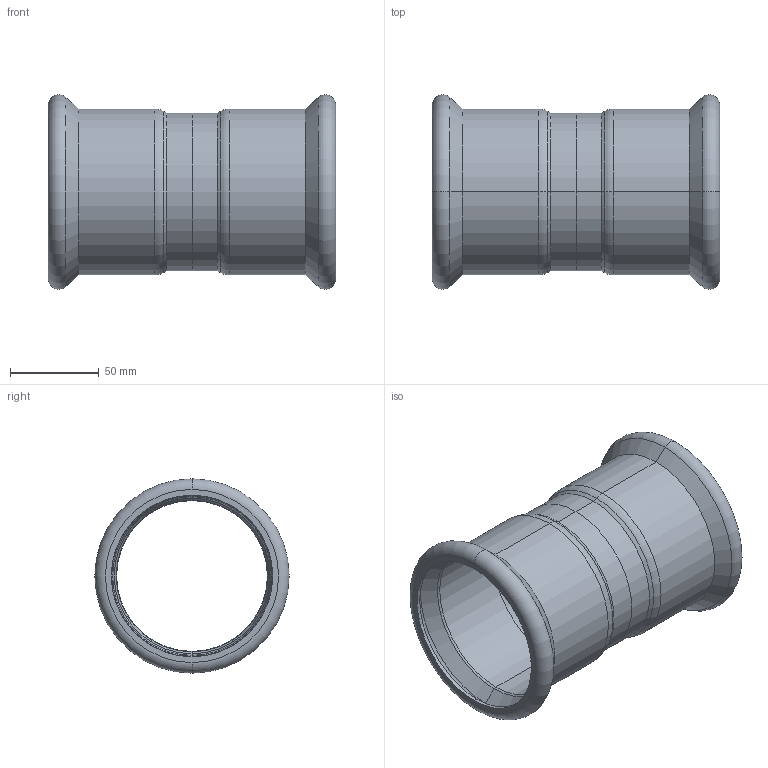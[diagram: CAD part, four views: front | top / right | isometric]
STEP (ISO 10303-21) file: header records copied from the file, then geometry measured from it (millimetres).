
FILE_DESCRIPTION (( 'STEP AP203' ), '1' );
FILE_NAME ('GDA5009.STEP', '2019-01-21T08:55:02', ( '' ), ( '' ), 'SwSTEP 2.0', 'SolidWorks 2015', '' );
FILE_SCHEMA (( 'CONFIG_CONTROL_DESIGN' ));
Length unit declared in the file: millimetre
Products named in the file (1): GDA5009
Bounding box: 162 x 109.47 x 109.47 mm (x, y, z)
Volume: 104741.7 mm3; surface area: 106994 mm2
Topology: 2 solids, 2 shells, 66 faces, 132 edges, 72 vertices
Faces by surface type: torus 24, cylinder 20, cone 16, plane 6
Entity records: 1791 total; most frequent: DIRECTION 362, CARTESIAN_POINT 271, ORIENTED_EDGE 264, AXIS2_PLACEMENT_3D 163, EDGE_CURVE 132, CIRCLE 96, VERTEX_POINT 72, EDGE_LOOP 72
